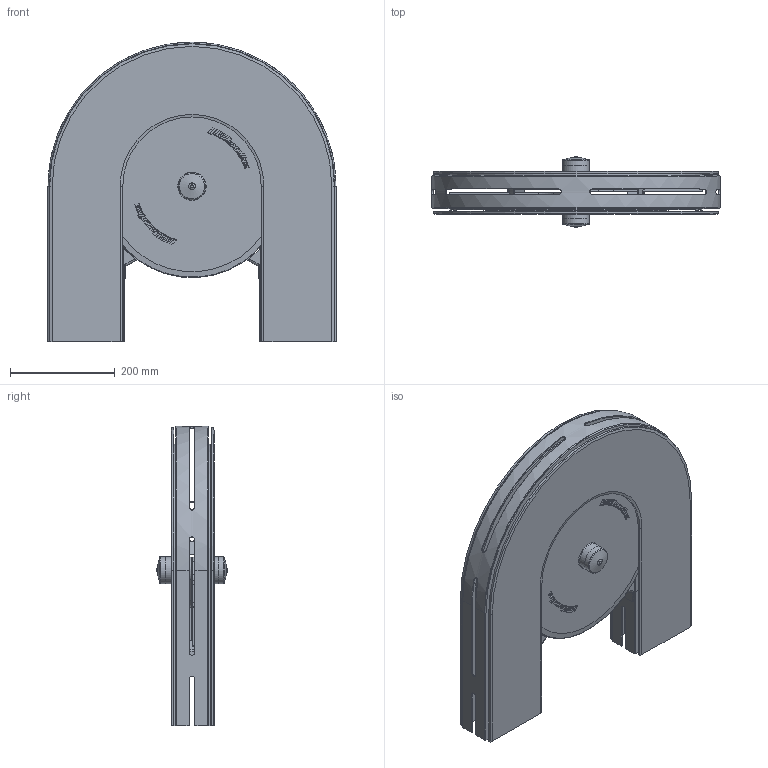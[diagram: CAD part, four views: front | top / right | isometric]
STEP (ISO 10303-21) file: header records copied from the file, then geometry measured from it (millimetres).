
FILE_DESCRIPTION(/* description */ ('WHEELCURVE 180° SERIE 540'),/* implementation_level */ '2;1');
FILE_NAME(/* name */ '540-5055-180.stp',/* time_stamp */ '2022-09-21T15:39:02+02:00',/* author */ ('ML'),/* organization */ ('CARRYLINE'),/* preprocessor_version */ 'ST-DEVELOPER v19.2',/* originating_system */ 'Autodesk Inventor 2023',/* authorisation */ '');
FILE_SCHEMA (('AUTOMOTIVE_DESIGN { 1 0 10303 214 3 1 1 }'));
Length unit declared in the file: millimetre
Products named in the file (8): 540-5055-180; 14261_2; 14261_11; 14261_12; 830-5060_1; 830-5062; 14261_21; 540-5375+140-2000-01
Assembly tree (10 placements, depth 2):
  540-5055-180
    14261_2
    14261_11
    14261_12
    14261_21  x2
    830-5060_1  x2
    830-5062  x2
    540-5375+140-2000-01
Bounding box: 551 x 136.8 x 573 mm (x, y, z)
Volume: 4317068.7 mm3; surface area: 2148233 mm2
Topology: 11 solids, 11 shells, 1406 faces, 3543 edges, 2228 vertices
Faces by surface type: plane 809, bspline 270, cylinder 195, cone 66, torus 62, sphere 4
Full cylindrical faces by diameter (mm): 4.917 x8, 6.2 x8, 8.5 x2, 16.2 x2, 17 x4, 20 x4, 30 x3, 40 x4, 47.6 x2, 51.3 x2, 350 x2
Entity records: 32677 total; most frequent: CARTESIAN_POINT 12374, ORIENTED_EDGE 4278, DIRECTION 3886, EDGE_CURVE 2139, VERTEX_POINT 1372, LINE 1332, VECTOR 1332, AXIS2_PLACEMENT_3D 1277
